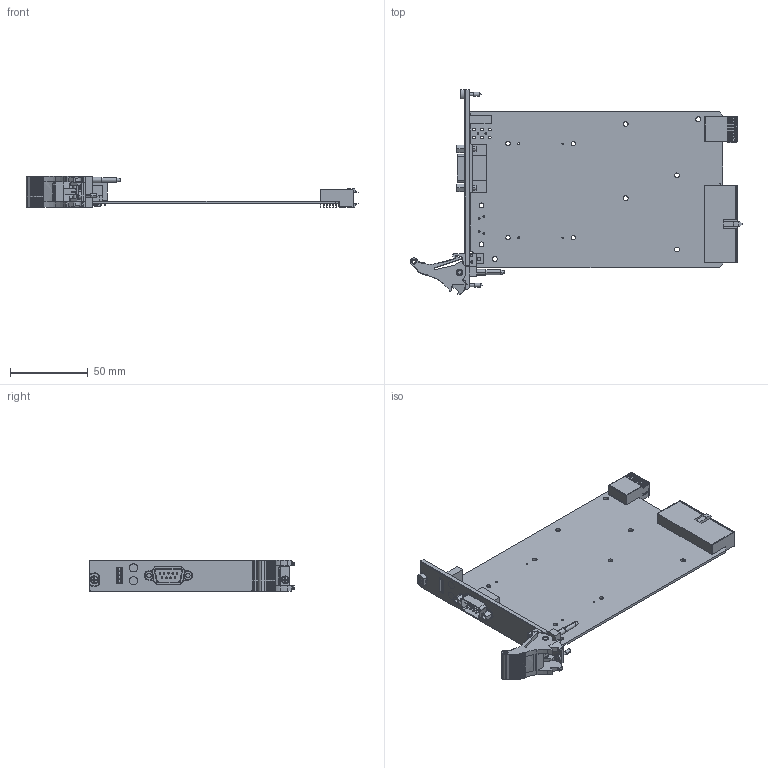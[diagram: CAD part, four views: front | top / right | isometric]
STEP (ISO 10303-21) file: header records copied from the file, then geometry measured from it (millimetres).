
FILE_DESCRIPTION((''),'2;1');
FILE_NAME('CU_PXI-8511_1','2009-02-19T',('dcrowder'),(''),'PRO/ENGINEER BY PARAMETRIC TECHNOLOGY CORPORATION, 2006080','PRO/ENGINEER BY PARAMETRIC TECHNOLOGY CORPORATION, 2006080','');
FILE_SCHEMA(('CONFIG_CONTROL_DESIGN'));
Products named in the file (1): CU_PXI-8511_1
Bounding box: 213.24 x 131.56 x 20.19 mm (x, y, z)
Volume: 53505.3 mm3; surface area: 53718.7 mm2
Topology: 2 solids, 2 shells, 2313 faces, 6037 edges, 3912 vertices
Faces by surface type: plane 1508, cylinder 668, bspline 65, cone 34, sphere 22, torus 12, extrusion 4
Entity records: 81852 total; most frequent: CARTESIAN_POINT 24150, ORIENTED_EDGE 12058, DIRECTION 11699, EDGE_CURVE 6029, VECTOR 4201, LINE 4197, VERTEX_POINT 3931, AXIS2_PLACEMENT_3D 3749
